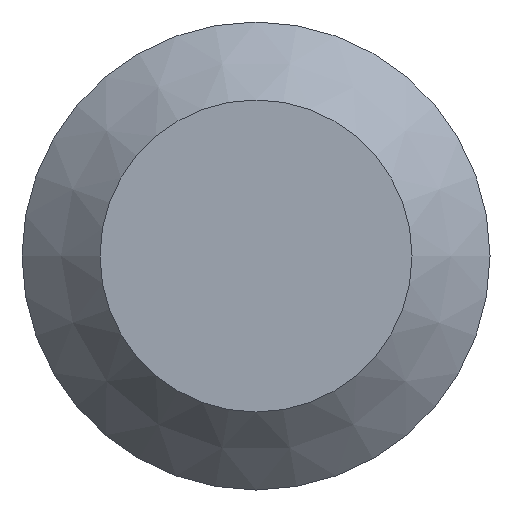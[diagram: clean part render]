
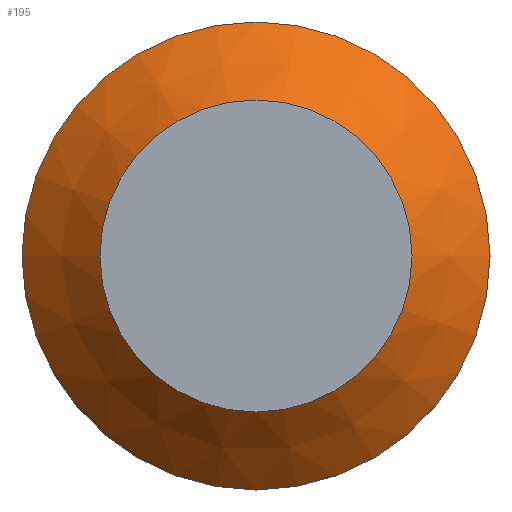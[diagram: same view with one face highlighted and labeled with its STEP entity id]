
A CAD part, front view. The second image highlights one B-rep face of the part: STEP entity #195.
In plain terms, the highlighted conical face has half-angle 45 degrees and reference radius 2.5 mm.
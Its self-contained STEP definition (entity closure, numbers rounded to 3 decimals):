
#32=FACE_OUTER_BOUND('',#44,.T.);
#44=EDGE_LOOP('',(#138,#139,#140,#141));
#57=LINE('',#298,#73);
#73=VECTOR('',#249,2.5);
#89=CIRCLE('',#228,2.);
#90=CIRCLE('',#229,3.);
#93=VERTEX_POINT('',#295);
#94=VERTEX_POINT('',#297);
#111=EDGE_CURVE('',#93,#93,#89,.T.);
#112=EDGE_CURVE('',#93,#94,#57,.T.);
#113=EDGE_CURVE('',#94,#94,#90,.T.);
#138=ORIENTED_EDGE('',*,*,#111,.T.);
#139=ORIENTED_EDGE('',*,*,#112,.T.);
#140=ORIENTED_EDGE('',*,*,#113,.T.);
#141=ORIENTED_EDGE('',*,*,#112,.F.);
#192=CONICAL_SURFACE('',#227,2.5,0.785);
#195=ADVANCED_FACE('',(#32),#192,.T.);
#227=AXIS2_PLACEMENT_3D('',#294,#245,#246);
#228=AXIS2_PLACEMENT_3D('',#296,#247,#248);
#229=AXIS2_PLACEMENT_3D('',#299,#250,#251);
#245=DIRECTION('center_axis',(0.,1.,0.));
#246=DIRECTION('ref_axis',(1.,0.,0.));
#247=DIRECTION('center_axis',(0.,1.,0.));
#248=DIRECTION('ref_axis',(1.,0.,0.));
#249=DIRECTION('',(-0.707,0.707,0.));
#250=DIRECTION('center_axis',(0.,-1.,0.));
#251=DIRECTION('ref_axis',(1.,0.,0.));
#294=CARTESIAN_POINT('Origin',(0.,0.5,0.));
#295=CARTESIAN_POINT('',(-2.,0.,0.));
#296=CARTESIAN_POINT('Origin',(0.,0.,0.));
#297=CARTESIAN_POINT('',(-3.,1.,0.));
#298=CARTESIAN_POINT('',(-2.5,0.5,0.));
#299=CARTESIAN_POINT('Origin',(0.,1.,0.));
